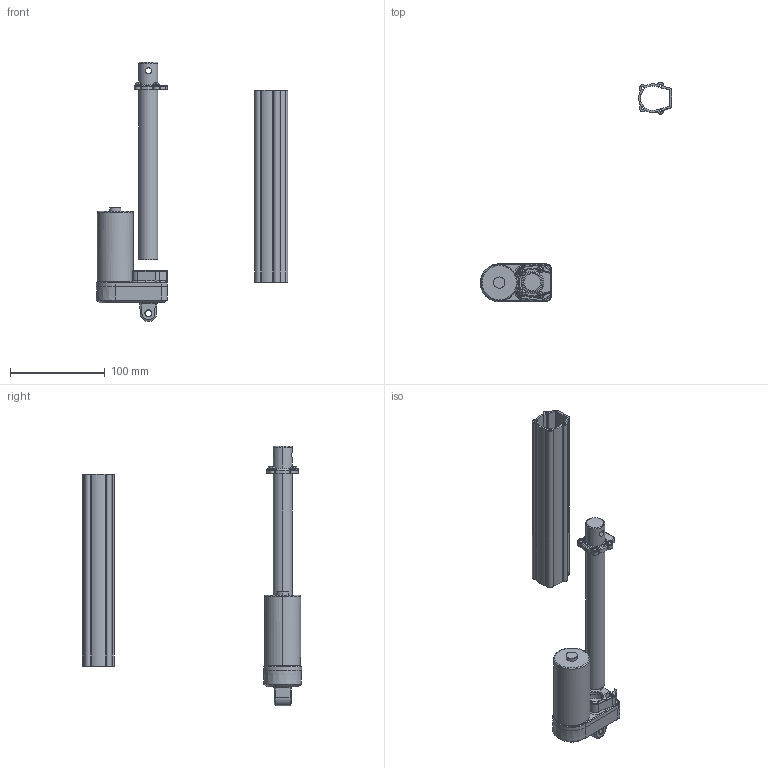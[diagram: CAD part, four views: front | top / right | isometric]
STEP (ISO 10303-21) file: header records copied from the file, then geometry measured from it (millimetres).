
FILE_DESCRIPTION(/* description */ ('Alibre Inc.'),/* implementation_level */ '2;1');
FILE_NAME(/* name */ 'export0',/* time_stamp */ '2008-04-02T09:34:59+02:00',/* author */ (''),/* organization */ (''),/* preprocessor_version */ 'ST-DEVELOPER v10',/* originating_system */ 'Alibre',/* authorisation */ '');
FILE_SCHEMA (('ALIBRE_SCHEMA','CONFIG_CONTROL_DESIGN'));
Length unit declared in the file: millimetre
Products named in the file (4): ID_1; ID_2; ID_3
Bounding box: 201.76 x 230.84 x 273.31 mm (x, y, z)
Volume: 227684.8 mm3; surface area: 103993 mm2
Topology: 3 solids, 3 shells, 638 faces, 1641 edges, 1013 vertices
Faces by surface type: cylinder 206, plane 181, torus 123, cone 102, bspline 24, sphere 2
Entity records: 44374 total; most frequent: CARTESIAN_POINT 11809, DIRECTION 6338, ORIENTED_EDGE 6276, EDGE_CURVE 3138, AXIS2_PLACEMENT_3D 2877, VERTEX_POINT 1938, CIRCLE 1640, EDGE_LOOP 1308
